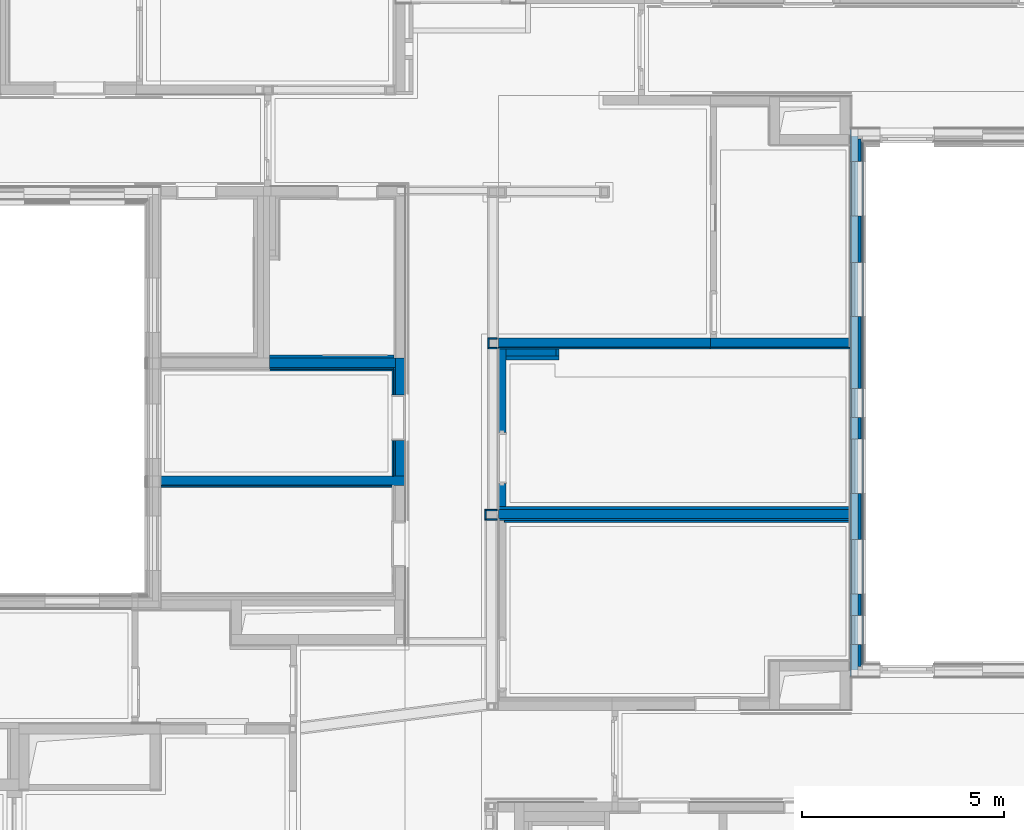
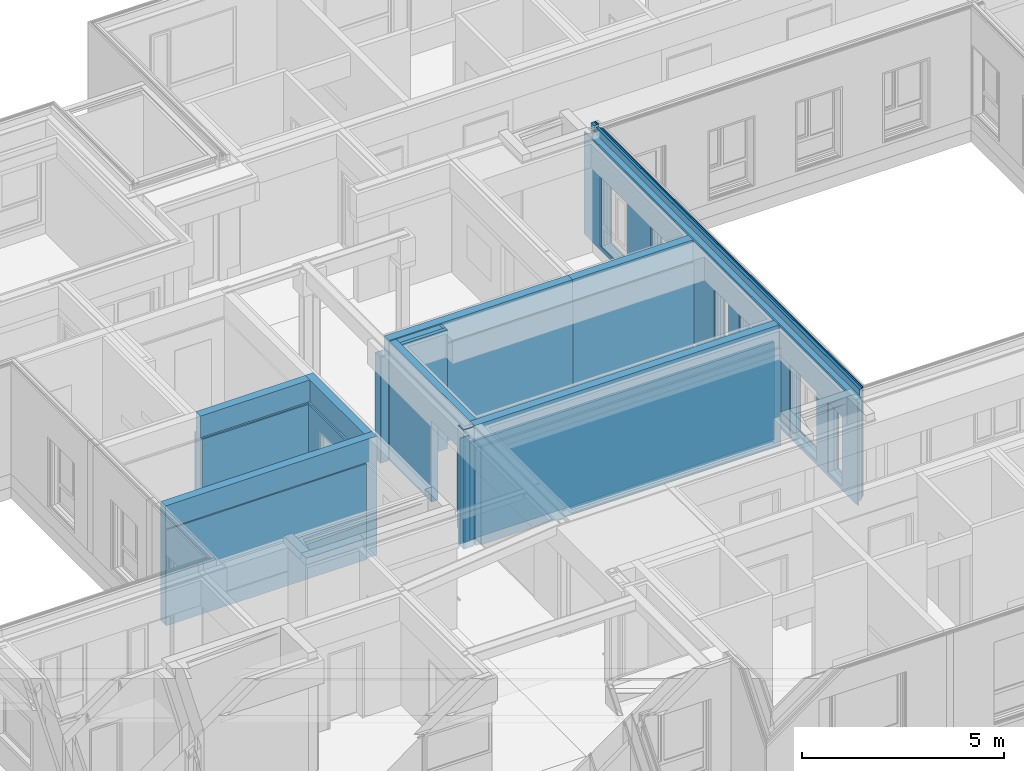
# One storey, part 48 of 207: 32 walls, 34 openings.
"""IFC4 building model written with IfcOpenShell, lengths in metres."""

from ifc_helpers import new_model, entity, si_unit, converted_unit, derived_unit, frame, frame_2d, origin, origin_with_axes, place, context, subcontext, project, spatial, polyline, rectangle, outline, extrude, clip, bounded_halfspace, material, element, save


model = new_model("IFC4")

# Units and contexts
model_context = context("Model", 3, precision=1e-05, world=origin())
body_context = subcontext(model_context, "Body", "Model", "MODEL_VIEW")
ifc_project = project(units=[si_unit("LENGTHUNIT", "METRE"), si_unit("AREAUNIT", "SQUARE_METRE"), si_unit("VOLUMEUNIT", "CUBIC_METRE"), si_unit("MASSUNIT", "GRAM", prefix="KILO"), converted_unit("PLANEANGLEUNIT", "DEGREE", entity("IfcPlaneAngleMeasure", 0.0174532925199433), si_unit("PLANEANGLEUNIT", "RADIAN"), dimensions=[0, 0, 0, 0, 0, 0, 0]), derived_unit("THERMALTRANSMITTANCEUNIT", [(si_unit("POWERUNIT", "WATT"), 1), (si_unit("THERMODYNAMICTEMPERATUREUNIT", "KELVIN"), -1), (si_unit("LENGTHUNIT", "METRE"), -2)]), derived_unit("VOLUMETRICFLOWRATEUNIT", [(si_unit("LENGTHUNIT", "METRE"), 3), (converted_unit("TIMEUNIT", "hour", entity("IfcTimeMeasure", 3600.0), si_unit("TIMEUNIT", "SECOND"), dimensions=[0, 0, 1, 0, 0, 0, 0]), -1), (si_unit("LENGTHUNIT", "METRE"), -1)])], contexts=[model_context])

# Site, building, storey
site_placement = place(None, origin())
site = spatial("IfcSite", under=ifc_project, at=site_placement, Name="Psychiatrie Neubau Wunstorf", CompositionType="ELEMENT")
building_placement = place(site_placement, origin())
building = spatial("IfcBuilding", under=site, at=building_placement, Name="Neubau H2 Stationsgebäude", CompositionType="ELEMENT")
storey_placement = place(building_placement, frame((0.0, 0.0, -0.2)))
storey = spatial("IfcBuildingStorey", under=building, at=storey_placement, Name="H2 Ebene 0", CompositionType="ELEMENT", Elevation=-0.2)

# Wall, openings
ifc_material_1 = material(Name="WA-LB")
wall_1_placement = place(storey_placement, frame((79.139, 22.0, 0.5), z_axis=(0.0, 0.0, 1.0), x_axis=(0.0, -1.0, 0.0)))
wall_1 = element("IfcWall", 1, at=wall_1_placement, inside=storey, material=ifc_material_1, context=body_context, shape_type="SweptSolid", body=[
    extrude(rectangle(XDim=13.55, YDim=0.036, at=frame_2d((6.775, 0.018), x_axis=(1.0, 0.0))), origin_with_axes(), (0.0, 0.0, 1.0), 3.1),
])
opening_1_placement = place(wall_1_placement, frame((12.7649999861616, 0.036, 0.1), z_axis=(0.0, -1.0, 0.0), x_axis=(0.0, 0.0, 1.0)))
element("IfcOpeningElement", 2, at=opening_1_placement, cuts=wall_1, Name="Fensteröffnung", ObjectType="Opening", context=body_context, shape_type="SweptSolid", body=[
    extrude(outline(polyline([(2.12, 0.725), (2.12, 0.0), (0.0, 0.0), (0.0, 0.725), (2.12, 0.725)])), origin_with_axes(), (0.0, 0.0, 1.0), 0.036),
])
opening_2_placement = place(wall_1_placement, frame((11.5165865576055, 0.036, 0.1), z_axis=(0.0, -1.0, 0.0), x_axis=(0.0, 0.0, 1.0)))
element("IfcOpeningElement", 3, at=opening_2_placement, cuts=wall_1, Name="Fensteröffnung", ObjectType="Opening", context=body_context, shape_type="SweptSolid", body=[
    extrude(outline(polyline([(2.12, 1.35), (2.12, 0.0), (0.0, 0.0), (0.0, 1.35), (2.12, 1.35)])), origin_with_axes(), (0.0, 0.0, 1.0), 0.036),
])
opening_3_placement = place(wall_1_placement, frame((9.01664410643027, 0.036, 0.1), z_axis=(0.0, -1.0, 0.0), x_axis=(0.0, 0.0, 1.0)))
element("IfcOpeningElement", 4, at=opening_3_placement, cuts=wall_1, Name="Fensteröffnung", ObjectType="Opening", context=body_context, shape_type="SweptSolid", body=[
    extrude(outline(polyline([(2.12, 1.35), (2.12, 0.0), (0.0, 0.0), (0.0, 1.35), (2.12, 1.35)])), origin_with_axes(), (0.0, 0.0, 1.0), 0.036),
])
opening_4_placement = place(wall_1_placement, frame((4.64200463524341, 0.0360000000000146, 0.1), z_axis=(0.0, -1.0, 0.0), x_axis=(0.0, 0.0, 1.0)))
element("IfcOpeningElement", 5, at=opening_4_placement, cuts=wall_1, Name="Fensteröffnung", ObjectType="Opening", context=body_context, shape_type="SweptSolid", body=[
    extrude(outline(polyline([(2.12, 1.35), (2.12, 0.0), (0.0, 0.0), (0.0, 1.35), (2.12, 1.35)])), origin_with_axes(), (0.0, 0.0, 1.0), 0.036),
])
opening_5_placement = place(wall_1_placement, frame((2.14244477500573, 0.036, 0.1), z_axis=(0.0, -1.0, 0.0), x_axis=(0.0, 0.0, 1.0)))
element("IfcOpeningElement", 6, at=opening_5_placement, cuts=wall_1, Name="Fensteröffnung", ObjectType="Opening", context=body_context, shape_type="SweptSolid", body=[
    extrude(outline(polyline([(2.12, 1.35), (2.12, 0.0), (0.0, 0.0), (0.0, 1.35), (2.12, 1.35)])), origin_with_axes(), (0.0, 0.0, 1.0), 0.036),
])
opening_6_placement = place(wall_1_placement, frame((7.14238722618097, 0.036, 0.1), z_axis=(0.0, -1.0, 0.0), x_axis=(0.0, 0.0, 1.0)))
element("IfcOpeningElement", 7, at=opening_6_placement, cuts=wall_1, Name="Fensteröffnung", ObjectType="Opening", context=body_context, shape_type="SweptSolid", body=[
    extrude(outline(polyline([(2.12, 0.725), (2.12, 0.0), (0.0, 0.0), (0.0, 0.725), (2.12, 0.725)])), origin_with_axes(), (0.0, 0.0, 1.0), 0.036),
])

ifc_material_2 = material(Name="WA-HD")
wall_2_placement = place(storey_placement, frame((79.175, 21.84, 0.5), z_axis=(0.0, 0.0, 1.0), x_axis=(0.0, -1.0, 0.0)))
wall_2 = element("IfcWall", 8, at=wall_2_placement, inside=storey, material=ifc_material_2, context=body_context, shape_type="SweptSolid", body=[
    extrude(rectangle(XDim=13.23, YDim=0.16, at=frame_2d((6.615, 0.08), x_axis=(1.0, 0.0))), origin_with_axes(), (0.0, 0.0, 1.0), 3.1),
])
opening_7_placement = place(wall_2_placement, frame((12.6049999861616, 0.16, 0.1), z_axis=(0.0, -1.0, 0.0), x_axis=(0.0, 0.0, 1.0)))
element("IfcOpeningElement", 9, at=opening_7_placement, cuts=wall_2, Name="Fensteröffnung", ObjectType="Opening", context=body_context, shape_type="SweptSolid", body=[
    extrude(outline(polyline([(2.12, 0.725), (2.12, 0.0), (0.0, 0.0), (0.0, 0.725), (2.12, 0.725)])), origin_with_axes(), (0.0, 0.0, 1.0), 0.16),
])
opening_8_placement = place(wall_2_placement, frame((11.3565865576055, 0.16, 0.1), z_axis=(0.0, -1.0, 0.0), x_axis=(0.0, 0.0, 1.0)))
element("IfcOpeningElement", 10, at=opening_8_placement, cuts=wall_2, Name="Fensteröffnung", ObjectType="Opening", context=body_context, shape_type="SweptSolid", body=[
    extrude(outline(polyline([(2.12, 1.35), (2.12, 0.0), (0.0, 0.0), (0.0, 1.35), (2.12, 1.35)])), origin_with_axes(), (0.0, 0.0, 1.0), 0.16),
])
opening_9_placement = place(wall_2_placement, frame((8.85664410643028, 0.16, 0.1), z_axis=(0.0, -1.0, 0.0), x_axis=(0.0, 0.0, 1.0)))
element("IfcOpeningElement", 11, at=opening_9_placement, cuts=wall_2, Name="Fensteröffnung", ObjectType="Opening", context=body_context, shape_type="SweptSolid", body=[
    extrude(outline(polyline([(2.12, 1.35), (2.12, 0.0), (0.0, 0.0), (0.0, 1.35), (2.12, 1.35)])), origin_with_axes(), (0.0, 0.0, 1.0), 0.16),
])
opening_10_placement = place(wall_2_placement, frame((4.48200463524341, 0.160000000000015, 0.1), z_axis=(0.0, -1.0, 0.0), x_axis=(0.0, 0.0, 1.0)))
element("IfcOpeningElement", 12, at=opening_10_placement, cuts=wall_2, Name="Fensteröffnung", ObjectType="Opening", context=body_context, shape_type="SweptSolid", body=[
    extrude(outline(polyline([(2.12, 1.35), (2.12, 0.0), (0.0, 0.0), (0.0, 1.35), (2.12, 1.35)])), origin_with_axes(), (0.0, 0.0, 1.0), 0.16),
])
opening_11_placement = place(wall_2_placement, frame((1.98244477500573, 0.16, 0.1), z_axis=(0.0, -1.0, 0.0), x_axis=(0.0, 0.0, 1.0)))
element("IfcOpeningElement", 13, at=opening_11_placement, cuts=wall_2, Name="Fensteröffnung", ObjectType="Opening", context=body_context, shape_type="SweptSolid", body=[
    extrude(outline(polyline([(2.12, 1.35), (2.12, 0.0), (0.0, 0.0), (0.0, 1.35), (2.12, 1.35)])), origin_with_axes(), (0.0, 0.0, 1.0), 0.16),
])
opening_12_placement = place(wall_2_placement, frame((6.98238722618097, 0.16, 0.1), z_axis=(0.0, -1.0, 0.0), x_axis=(0.0, 0.0, 1.0)))
element("IfcOpeningElement", 14, at=opening_12_placement, cuts=wall_2, Name="Fensteröffnung", ObjectType="Opening", context=body_context, shape_type="SweptSolid", body=[
    extrude(outline(polyline([(2.12, 0.725), (2.12, 0.0), (0.0, 0.0), (0.0, 0.725), (2.12, 0.725)])), origin_with_axes(), (0.0, 0.0, 1.0), 0.16),
])

ifc_material_3 = material(Name="WA-DL")
wall_3_placement = place(storey_placement, frame((79.335, 22.0, 0.5), z_axis=(0.0, 0.0, 1.0), x_axis=(0.0, -1.0, 0.0)))
wall_3 = element("IfcWall", 15, at=wall_3_placement, inside=storey, material=ifc_material_3, context=body_context, shape_type="Clipping", body=[
    clip(extrude(rectangle(XDim=13.07, YDim=0.08, at=frame_2d((6.535, 0.04), x_axis=(1.0, 0.0))), frame((0.24, 0.0, 0.0), z_axis=(0.0, 0.0, 1.0), x_axis=(1.0, 0.0, 0.0)), (0.0, 0.0, 1.0), 3.3), bounded_halfspace(frame((0.08, 0.04, 3.1), z_axis=(1.4210854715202e-15, 2.8421709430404e-15, 1.0), x_axis=(1.0, 0.0, -2.8421709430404e-15)), True, origin_with_axes(), polyline([(0.0, 0.0), (0.16, 0.0), (0.16, 0.08), (0.0, 0.08), (0.0, 0.0)]))),
    clip(extrude(rectangle(XDim=0.16, YDim=0.08, at=frame_2d((0.08, 0.04), x_axis=(1.0, 0.0))), origin_with_axes(), (0.0, 0.0, 1.0), 3.3), bounded_halfspace(frame((0.08, 0.04, 3.1), z_axis=(1.4210854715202e-15, 2.8421709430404e-15, 1.0), x_axis=(1.0, 0.0, -2.8421709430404e-15)), True, origin_with_axes(), polyline([(0.0, 0.0), (0.16, 0.0), (0.16, 0.08), (0.0, 0.08), (0.0, 0.0)]))),
])
opening_13_placement = place(wall_3_placement, frame((12.7649999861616, 0.08, 0.1), z_axis=(0.0, -1.0, 0.0), x_axis=(0.0, 0.0, 1.0)))
element("IfcOpeningElement", 16, at=opening_13_placement, cuts=wall_3, Name="Fensteröffnung", ObjectType="Opening", context=body_context, shape_type="SweptSolid", body=[
    extrude(outline(polyline([(2.12, 0.725), (2.12, 0.0), (0.0, 0.0), (0.0, 0.725), (2.12, 0.725)])), origin_with_axes(), (0.0, 0.0, 1.0), 0.08),
])
opening_14_placement = place(wall_3_placement, frame((11.5165865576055, 0.08, 0.1), z_axis=(0.0, -1.0, 0.0), x_axis=(0.0, 0.0, 1.0)))
element("IfcOpeningElement", 17, at=opening_14_placement, cuts=wall_3, Name="Fensteröffnung", ObjectType="Opening", context=body_context, shape_type="SweptSolid", body=[
    extrude(outline(polyline([(2.12, 1.35), (2.12, 0.0), (0.0, 0.0), (0.0, 1.35), (2.12, 1.35)])), origin_with_axes(), (0.0, 0.0, 1.0), 0.08),
])
opening_15_placement = place(wall_3_placement, frame((9.01664410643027, 0.08, 0.1), z_axis=(0.0, -1.0, 0.0), x_axis=(0.0, 0.0, 1.0)))
element("IfcOpeningElement", 18, at=opening_15_placement, cuts=wall_3, Name="Fensteröffnung", ObjectType="Opening", context=body_context, shape_type="SweptSolid", body=[
    extrude(outline(polyline([(2.12, 1.35), (2.12, 0.0), (0.0, 0.0), (0.0, 1.35), (2.12, 1.35)])), origin_with_axes(), (0.0, 0.0, 1.0), 0.08),
])
opening_16_placement = place(wall_3_placement, frame((4.64200463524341, 0.0800000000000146, 0.1), z_axis=(0.0, -1.0, 0.0), x_axis=(0.0, 0.0, 1.0)))
element("IfcOpeningElement", 19, at=opening_16_placement, cuts=wall_3, Name="Fensteröffnung", ObjectType="Opening", context=body_context, shape_type="SweptSolid", body=[
    extrude(outline(polyline([(2.12, 1.35), (2.12, 0.0), (0.0, 0.0), (0.0, 1.35), (2.12, 1.35)])), origin_with_axes(), (0.0, 0.0, 1.0), 0.08),
])
opening_17_placement = place(wall_3_placement, frame((2.14244477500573, 0.08, 0.1), z_axis=(0.0, -1.0, 0.0), x_axis=(0.0, 0.0, 1.0)))
element("IfcOpeningElement", 20, at=opening_17_placement, cuts=wall_3, Name="Fensteröffnung", ObjectType="Opening", context=body_context, shape_type="SweptSolid", body=[
    extrude(outline(polyline([(2.12, 1.35), (2.12, 0.0), (0.0, 0.0), (0.0, 1.35), (2.12, 1.35)])), origin_with_axes(), (0.0, 0.0, 1.0), 0.08),
])
opening_18_placement = place(wall_3_placement, frame((7.14238722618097, 0.08, 0.1), z_axis=(0.0, -1.0, 0.0), x_axis=(0.0, 0.0, 1.0)))
element("IfcOpeningElement", 21, at=opening_18_placement, cuts=wall_3, Name="Fensteröffnung", ObjectType="Opening", context=body_context, shape_type="SweptSolid", body=[
    extrude(outline(polyline([(2.12, 0.725), (2.12, 0.0), (0.0, 0.0), (0.0, 0.725), (2.12, 0.725)])), origin_with_axes(), (0.0, 0.0, 1.0), 0.08),
])

ifc_material_4 = material(Name="WA-LB")
wall_4_placement = place(storey_placement, frame((79.415, 22.0, 0.5), z_axis=(0.0, 0.0, 1.0), x_axis=(0.0, -1.0, 0.0)))
wall_4 = element("IfcWall", 22, at=wall_4_placement, inside=storey, material=ifc_material_4, context=body_context, shape_type="Clipping", body=[
    clip(extrude(rectangle(XDim=12.974, YDim=0.036, at=frame_2d((6.487, 0.018), x_axis=(1.0, 0.0))), frame((0.3, 0.0, 0.0), z_axis=(0.0, 0.0, 1.0), x_axis=(1.0, 0.0, 0.0)), (0.0, 0.0, 1.0), 3.3), bounded_halfspace(frame((0.08, 0.018, 3.1), z_axis=(1.4210854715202e-15, 6.31593542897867e-15, 1.0), x_axis=(0.0, -1.0, 1.26318708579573e-14)), True, origin_with_axes(), polyline([(0.0, 0.036), (0.0, 0.0), (0.16, 0.0), (0.16, 0.036), (0.0, 0.036)]))),
    clip(extrude(rectangle(XDim=0.16, YDim=0.036, at=frame_2d((0.08, 0.018), x_axis=(1.0, 0.0))), origin_with_axes(), (0.0, 0.0, 1.0), 3.3), bounded_halfspace(frame((0.08, 0.018, 3.1), z_axis=(1.4210854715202e-15, 6.31593542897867e-15, 1.0), x_axis=(0.0, -1.0, 1.26318708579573e-14)), True, origin_with_axes(), polyline([(0.0, 0.036), (0.0, 0.0), (0.16, 0.0), (0.16, 0.036), (0.0, 0.036)]))),
])
opening_19_placement = place(wall_4_placement, frame((12.7649999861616, 0.036, 0.1), z_axis=(0.0, -1.0, 0.0), x_axis=(0.0, 0.0, 1.0)))
element("IfcOpeningElement", 23, at=opening_19_placement, cuts=wall_4, Name="Fensteröffnung", ObjectType="Opening", context=body_context, shape_type="SweptSolid", body=[
    extrude(outline(polyline([(2.12, 0.725), (2.12, 0.0), (0.0, 0.0), (0.0, 0.725), (2.12, 0.725)])), origin_with_axes(), (0.0, 0.0, 1.0), 0.036),
])
opening_20_placement = place(wall_4_placement, frame((11.5165865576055, 0.036, 0.1), z_axis=(0.0, -1.0, 0.0), x_axis=(0.0, 0.0, 1.0)))
element("IfcOpeningElement", 24, at=opening_20_placement, cuts=wall_4, Name="Fensteröffnung", ObjectType="Opening", context=body_context, shape_type="SweptSolid", body=[
    extrude(outline(polyline([(2.12, 1.35), (2.12, 0.0), (0.0, 0.0), (0.0, 1.35), (2.12, 1.35)])), origin_with_axes(), (0.0, 0.0, 1.0), 0.036),
])
opening_21_placement = place(wall_4_placement, frame((9.01664410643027, 0.036, 0.1), z_axis=(0.0, -1.0, 0.0), x_axis=(0.0, 0.0, 1.0)))
element("IfcOpeningElement", 25, at=opening_21_placement, cuts=wall_4, Name="Fensteröffnung", ObjectType="Opening", context=body_context, shape_type="SweptSolid", body=[
    extrude(outline(polyline([(2.12, 1.35), (2.12, 0.0), (0.0, 0.0), (0.0, 1.35), (2.12, 1.35)])), origin_with_axes(), (0.0, 0.0, 1.0), 0.036),
])
opening_22_placement = place(wall_4_placement, frame((4.64200463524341, 0.0360000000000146, 0.1), z_axis=(0.0, -1.0, 0.0), x_axis=(0.0, 0.0, 1.0)))
element("IfcOpeningElement", 26, at=opening_22_placement, cuts=wall_4, Name="Fensteröffnung", ObjectType="Opening", context=body_context, shape_type="SweptSolid", body=[
    extrude(outline(polyline([(2.12, 1.35), (2.12, 0.0), (0.0, 0.0), (0.0, 1.35), (2.12, 1.35)])), origin_with_axes(), (0.0, 0.0, 1.0), 0.036),
])
opening_23_placement = place(wall_4_placement, frame((2.14244477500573, 0.036, 0.1), z_axis=(0.0, -1.0, 0.0), x_axis=(0.0, 0.0, 1.0)))
element("IfcOpeningElement", 27, at=opening_23_placement, cuts=wall_4, Name="Fensteröffnung", ObjectType="Opening", context=body_context, shape_type="SweptSolid", body=[
    extrude(outline(polyline([(2.12, 1.35), (2.12, 0.0), (0.0, 0.0), (0.0, 1.35), (2.12, 1.35)])), origin_with_axes(), (0.0, 0.0, 1.0), 0.036),
])
opening_24_placement = place(wall_4_placement, frame((7.14238722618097, 0.036, 0.1), z_axis=(0.0, -1.0, 0.0), x_axis=(0.0, 0.0, 1.0)))
element("IfcOpeningElement", 28, at=opening_24_placement, cuts=wall_4, Name="Fensteröffnung", ObjectType="Opening", context=body_context, shape_type="SweptSolid", body=[
    extrude(outline(polyline([(2.12, 0.725), (2.12, 0.0), (0.0, 0.0), (0.0, 0.725), (2.12, 0.725)])), origin_with_axes(), (0.0, 0.0, 1.0), 0.036),
])

ifc_material_5 = material(Name="WA-KL")
wall_5_placement = place(storey_placement, frame((79.451, 22.0, 0.5), z_axis=(0.0, 0.0, 1.0), x_axis=(0.0, -1.0, 0.0)))
wall_5 = element("IfcWall", 29, at=wall_5_placement, inside=storey, material=ifc_material_5, context=body_context, shape_type="Clipping", body=[
    clip(extrude(rectangle(XDim=12.914, YDim=0.024, at=frame_2d((6.457, 0.012), x_axis=(1.0, 0.0))), frame((0.336, 0.0, 0.0), z_axis=(0.0, 0.0, 1.0), x_axis=(1.0, 0.0, 0.0)), (0.0, 0.0, 1.0), 3.3), bounded_halfspace(frame((0.08, 0.012, 3.1), z_axis=(1.4210854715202e-15, 9.473903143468e-15, 1.0), x_axis=(0.0, -1.0, 1.8947806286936e-14)), True, origin_with_axes(), polyline([(0.0, 0.024), (0.0, 0.0), (0.16, 0.0), (0.16, 0.024), (0.0, 0.024)]))),
    clip(extrude(rectangle(XDim=0.16, YDim=0.024, at=frame_2d((0.08, 0.012), x_axis=(1.0, 0.0))), origin_with_axes(), (0.0, 0.0, 1.0), 3.3), bounded_halfspace(frame((0.08, 0.012, 3.1), z_axis=(1.4210854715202e-15, 9.473903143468e-15, 1.0), x_axis=(0.0, -1.0, 1.8947806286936e-14)), True, origin_with_axes(), polyline([(0.0, 0.024), (0.0, 0.0), (0.16, 0.0), (0.16, 0.024), (0.0, 0.024)]))),
])
opening_25_placement = place(wall_5_placement, frame((12.7649999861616, 0.024, 0.1), z_axis=(0.0, -1.0, 0.0), x_axis=(0.0, 0.0, 1.0)))
element("IfcOpeningElement", 30, at=opening_25_placement, cuts=wall_5, Name="Fensteröffnung", ObjectType="Opening", context=body_context, shape_type="SweptSolid", body=[
    extrude(outline(polyline([(2.12, 0.725), (2.12, 0.0), (0.0, 0.0), (0.0, 0.725), (2.12, 0.725)])), origin_with_axes(), (0.0, 0.0, 1.0), 0.024),
])
opening_26_placement = place(wall_5_placement, frame((11.5165865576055, 0.024, 0.1), z_axis=(0.0, -1.0, 0.0), x_axis=(0.0, 0.0, 1.0)))
element("IfcOpeningElement", 31, at=opening_26_placement, cuts=wall_5, Name="Fensteröffnung", ObjectType="Opening", context=body_context, shape_type="SweptSolid", body=[
    extrude(outline(polyline([(2.12, 1.35), (2.12, 0.0), (0.0, 0.0), (0.0, 1.35), (2.12, 1.35)])), origin_with_axes(), (0.0, 0.0, 1.0), 0.024),
])
opening_27_placement = place(wall_5_placement, frame((9.01664410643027, 0.024, 0.1), z_axis=(0.0, -1.0, 0.0), x_axis=(0.0, 0.0, 1.0)))
element("IfcOpeningElement", 32, at=opening_27_placement, cuts=wall_5, Name="Fensteröffnung", ObjectType="Opening", context=body_context, shape_type="SweptSolid", body=[
    extrude(outline(polyline([(2.12, 1.35), (2.12, 0.0), (0.0, 0.0), (0.0, 1.35), (2.12, 1.35)])), origin_with_axes(), (0.0, 0.0, 1.0), 0.024),
])
opening_28_placement = place(wall_5_placement, frame((4.64200463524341, 0.0240000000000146, 0.1), z_axis=(0.0, -1.0, 0.0), x_axis=(0.0, 0.0, 1.0)))
element("IfcOpeningElement", 33, at=opening_28_placement, cuts=wall_5, Name="Fensteröffnung", ObjectType="Opening", context=body_context, shape_type="SweptSolid", body=[
    extrude(outline(polyline([(2.12, 1.35), (2.12, 0.0), (0.0, 0.0), (0.0, 1.35), (2.12, 1.35)])), origin_with_axes(), (0.0, 0.0, 1.0), 0.024),
])
opening_29_placement = place(wall_5_placement, frame((2.14244477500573, 0.024, 0.1), z_axis=(0.0, -1.0, 0.0), x_axis=(0.0, 0.0, 1.0)))
element("IfcOpeningElement", 34, at=opening_29_placement, cuts=wall_5, Name="Fensteröffnung", ObjectType="Opening", context=body_context, shape_type="SweptSolid", body=[
    extrude(outline(polyline([(2.12, 1.35), (2.12, 0.0), (0.0, 0.0), (0.0, 1.35), (2.12, 1.35)])), origin_with_axes(), (0.0, 0.0, 1.0), 0.024),
])
opening_30_placement = place(wall_5_placement, frame((7.14238722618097, 0.024, 0.1), z_axis=(0.0, -1.0, 0.0), x_axis=(0.0, 0.0, 1.0)))
element("IfcOpeningElement", 35, at=opening_30_placement, cuts=wall_5, Name="Fensteröffnung", ObjectType="Opening", context=body_context, shape_type="SweptSolid", body=[
    extrude(outline(polyline([(2.12, 0.725), (2.12, 0.0), (0.0, 0.0), (0.0, 0.725), (2.12, 0.725)])), origin_with_axes(), (0.0, 0.0, 1.0), 0.024),
])

# Walls
ifc_material_6 = material(Name="WI-IW")
wall_6_placement = place(storey_placement, frame((71.930000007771, 16.3855, 0.0), z_axis=(0.0, 0.0, 1.0), x_axis=(0.0, 1.0, 0.0)))
element("IfcWall", 36, at=wall_6_placement, inside=storey, material=ifc_material_6, context=body_context, shape_type="SweptSolid", body=[
    extrude(rectangle(XDim=0.175, YDim=0.075, at=frame_2d((0.0875, 0.0375), x_axis=(1.0, 0.0))), origin_with_axes(), (0.0, 0.0, 1.0), 3.6),
])
ifc_material_7 = material(Name="WI-HW 60")
wall_7_placement = place(storey_placement, frame((67.8855, 16.3355000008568, 0.0), z_axis=(0.0, 0.0, 1.0), x_axis=(-1.0, 0.0, 0.0)))
element("IfcWall", 37, at=wall_7_placement, inside=storey, material=ifc_material_7, context=body_context, shape_type="SweptSolid", body=[
    extrude(rectangle(XDim=3.1255, YDim=0.232, at=frame_2d((1.56275, 0.116), x_axis=(1.0, 0.0))), origin_with_axes(), (0.0, 0.0, 1.0), 3.6),
])
ifc_material_8 = material(Name="Installationsraum")
wall_8_placement = place(storey_placement, frame((67.8355, 16.1035000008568, 0.0), z_axis=(0.0, 0.0, 1.0), x_axis=(-1.0, 0.0, 0.0)))
element("IfcWall", 38, at=wall_8_placement, inside=storey, material=ifc_material_8, context=body_context, shape_type="SweptSolid", body=[
    extrude(rectangle(XDim=3.0755, YDim=0.05, at=frame_2d((1.53775, 0.025), x_axis=(1.0, 0.0))), origin_with_axes(), (0.0, 0.0, 1.0), 2.95),
])
ifc_material_9 = material(Name="WI-LB")
wall_9_placement = place(storey_placement, frame((67.796, 16.0535000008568, 0.0), z_axis=(0.0, 0.0, 1.0), x_axis=(-1.0, 0.0, 0.0)))
element("IfcWall", 39, at=wall_9_placement, inside=storey, material=ifc_material_9, context=body_context, shape_type="SweptSolid", body=[
    extrude(rectangle(XDim=3.036, YDim=0.0395, at=frame_2d((1.518, 0.01975), x_axis=(1.0, 0.0))), origin_with_axes(), (0.0, 0.0, 1.0), 2.95),
])

# Wall, opening
ifc_material_10 = material(Name="WI-LB")
wall_10_placement = place(storey_placement, frame((67.796, 16.0535000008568, 0.0), z_axis=(0.0, 0.0, 1.0), x_axis=(0.0, -1.0, 0.0)))
wall_10 = element("IfcWall", 40, at=wall_10_placement, inside=storey, material=ifc_material_10, context=body_context, shape_type="SweptSolid", body=[
    extrude(rectangle(XDim=2.64400336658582, YDim=0.0395, at=frame_2d((1.32200168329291, 0.01975), x_axis=(1.0, 0.0))), origin_with_axes(), (0.0, 0.0, 1.0), 2.95),
])
opening_31_placement = place(wall_10_placement, frame((1.7635, 0.0395, 0.0), z_axis=(0.0, -1.0, 0.0), x_axis=(0.0, 0.0, 1.0)))
element("IfcOpeningElement", 41, at=opening_31_placement, cuts=wall_10, Name="Türöffnung", ObjectType="Opening", context=body_context, shape_type="SweptSolid", body=[
    extrude(outline(polyline([(2.46, 1.135), (2.46, 0.0), (0.0, 0.0), (0.0, 1.135), (2.46, 1.135)])), origin_with_axes(), (0.0, 0.0, 1.0), 0.0395),
])

ifc_material_11 = material(Name="Installationsraum")
wall_11_placement = place(storey_placement, frame((67.8355, 16.1035000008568, 0.0), z_axis=(0.0, 0.0, 1.0), x_axis=(0.0, -1.0, 0.0)))
wall_11 = element("IfcWall", 42, at=wall_11_placement, inside=storey, material=ifc_material_11, context=body_context, shape_type="SweptSolid", body=[
    extrude(rectangle(XDim=2.69400336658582, YDim=0.05, at=frame_2d((1.34700168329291, 0.025), x_axis=(1.0, 0.0))), origin_with_axes(), (0.0, 0.0, 1.0), 2.95),
])
opening_32_placement = place(wall_11_placement, frame((1.8135, 0.05, 0.0), z_axis=(0.0, -1.0, 0.0), x_axis=(0.0, 0.0, 1.0)))
element("IfcOpeningElement", 43, at=opening_32_placement, cuts=wall_11, Name="Türöffnung", ObjectType="Opening", context=body_context, shape_type="SweptSolid", body=[
    extrude(outline(polyline([(2.46, 1.135), (2.46, 0.0), (0.0, 0.0), (0.0, 1.135), (2.46, 1.135)])), origin_with_axes(), (0.0, 0.0, 1.0), 0.05),
])

ifc_material_12 = material(Name="WI-HW 60")
wall_12_placement = place(storey_placement, frame((67.8855, 16.3355000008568, 0.0), z_axis=(0.0, 0.0, 1.0), x_axis=(0.0, -1.0, 0.0)))
wall_12 = element("IfcWall", 44, at=wall_12_placement, inside=storey, material=ifc_material_12, context=body_context, shape_type="SweptSolid", body=[
    extrude(rectangle(XDim=2.92600336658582, YDim=0.232, at=frame_2d((1.46300168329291, 0.116), x_axis=(1.0, 0.0))), origin_with_axes(), (0.0, 0.0, 1.0), 3.6),
])
opening_33_placement = place(wall_12_placement, frame((2.0455, 0.232, 0.0), z_axis=(0.0, -1.0, 0.0), x_axis=(0.0, 0.0, 1.0)))
element("IfcOpeningElement", 45, at=opening_33_placement, cuts=wall_12, Name="Türöffnung", ObjectType="Opening", context=body_context, shape_type="SweptSolid", body=[
    extrude(outline(polyline([(2.46, 1.135), (2.46, 0.0), (0.0, 0.0), (0.0, 1.135), (2.46, 1.135)])), origin_with_axes(), (0.0, 0.0, 1.0), 0.232),
])

# Walls
ifc_material_13 = material(Name="WI-IW")
wall_13_placement = place(storey_placement, frame((70.62, 16.2855, 0.0)))
element("IfcWall", 46, at=wall_13_placement, inside=storey, material=ifc_material_13, context=body_context, shape_type="SweptSolid", body=[
    extrude(rectangle(XDim=1.31000000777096, YDim=0.1, at=frame_2d((0.655000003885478, 0.05), x_axis=(1.0, 0.0))), origin_with_axes(), (0.0, 0.0, 1.0), 3.6),
])
ifc_material_14 = material(Name="Installationsraum")
wall_14_placement = place(storey_placement, frame((70.62, 16.3855, 0.0)))
element("IfcWall", 47, at=wall_14_placement, inside=storey, material=ifc_material_14, context=body_context, shape_type="SweptSolid", body=[
    extrude(rectangle(XDim=1.23500000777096, YDim=0.175, at=frame_2d((0.617500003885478, 0.0875), x_axis=(1.0, 0.0))), origin_with_axes(), (0.0, 0.0, 1.0), 3.6),
])
ifc_material_15 = material(Name="BS Beplankung")
wall_15_placement = place(storey_placement, frame((70.1639939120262, 16.8325, 0.0), z_axis=(0.0, 0.0, 1.0), x_axis=(0.0, -1.0, 0.0)))
element("IfcWall", 48, at=wall_15_placement, inside=storey, material=ifc_material_15, context=body_context, shape_type="SweptSolid", body=[
    extrude(outline(polyline([(-0.272, 0.0), (0.0, 0.0), (0.0, 0.0260060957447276), (-0.036, 0.0260060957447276), (-0.036, 0.036), (-0.272, 0.036), (-0.272, 0.0)])), frame((0.272, 0.0, 0.0), z_axis=(0.0, 0.0, 1.0), x_axis=(1.0, 0.0, 0.0)), (0.0, 0.0, 1.0), 3.2),
])
ifc_material_16 = material(Name="BS Beplankung")
wall_16_placement = place(storey_placement, frame((70.135000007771, 12.3140595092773, 0.0)))
element("IfcWall", 49, at=wall_16_placement, inside=storey, material=ifc_material_16, context=body_context, shape_type="SweptSolid", body=[
    extrude(rectangle(XDim=0.265, YDim=0.036, at=frame_2d((0.1325, 0.018), x_axis=(1.0, 0.0))), origin_with_axes(), (0.0, 0.0, 1.0), 3.6),
])
ifc_material_17 = material(Name="BS Beplankung")
wall_17_placement = place(storey_placement, frame((70.400000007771, 12.5860595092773, 0.0), z_axis=(0.0, 0.0, 1.0), x_axis=(-1.0, 0.0, 0.0)))
element("IfcWall", 50, at=wall_17_placement, inside=storey, material=ifc_material_17, context=body_context, shape_type="SweptSolid", body=[
    extrude(rectangle(XDim=0.265, YDim=0.036, at=frame_2d((0.1325, 0.018), x_axis=(1.0, 0.0))), origin_with_axes(), (0.0, 0.0, 1.0), 3.2),
])
ifc_material_18 = material(Name="BS Beplankung")
wall_18_placement = place(storey_placement, frame((70.099000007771, 12.5860595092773, 0.0), z_axis=(0.0, 0.0, 1.0), x_axis=(0.0, -1.0, 0.0)))
element("IfcWall", 51, at=wall_18_placement, inside=storey, material=ifc_material_18, context=body_context, shape_type="SweptSolid", body=[
    extrude(rectangle(XDim=0.272, YDim=0.036, at=frame_2d((0.136, 0.018), x_axis=(1.0, 0.0))), origin_with_axes(), (0.0, 0.0, 1.0), 3.6),
])
ifc_material_19 = material(Name="BS Beplankung")
wall_19_placement = place(storey_placement, frame((70.190000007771, 16.5605, 0.0)))
element("IfcWall", 52, at=wall_19_placement, inside=storey, material=ifc_material_19, context=body_context, shape_type="SweptSolid", body=[
    extrude(rectangle(XDim=0.21, YDim=0.036, at=frame_2d((0.105, 0.018), x_axis=(1.0, 0.0))), origin_with_axes(), (0.0, 0.0, 1.0), 3.2),
])
ifc_material_20 = material(Name="BS Beplankung")
wall_20_placement = place(storey_placement, frame((70.400000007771, 16.8325, 0.0), z_axis=(0.0, 0.0, 1.0), x_axis=(-1.0, 0.0, 0.0)))
element("IfcWall", 53, at=wall_20_placement, inside=storey, material=ifc_material_20, context=body_context, shape_type="SweptSolid", body=[
    extrude(rectangle(XDim=0.200006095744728, YDim=0.036, at=frame_2d((0.100003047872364, 0.018), x_axis=(1.0, 0.0))), origin_with_axes(), (0.0, 0.0, 1.0), 3.2),
])

# Wall, opening
ifc_material_21 = material(Name="WI-LB")
wall_21_placement = place(storey_placement, frame((70.43, 16.5605, 0.0), z_axis=(0.0, 0.0, 1.0), x_axis=(0.0, -1.0, 0.0)))
wall_21 = element("IfcWall", 54, at=wall_21_placement, inside=storey, material=ifc_material_21, context=body_context, shape_type="SweptSolid", body=[
    extrude(rectangle(XDim=3.9745, YDim=0.19, at=frame_2d((1.98725, 0.095), x_axis=(1.0, 0.0))), origin_with_axes(), (0.0, 0.0, 1.0), 3.6),
])
opening_34_placement = place(wall_21_placement, frame((3.3355, 0.19, 0.0), z_axis=(0.0, -1.0, 0.0), x_axis=(0.0, 0.0, 1.0)))
element("IfcOpeningElement", 55, at=opening_34_placement, cuts=wall_21, Name="Türöffnung", ObjectType="Opening", context=body_context, shape_type="SweptSolid", body=[
    extrude(outline(polyline([(2.46, 1.26), (2.46, 0.0), (0.0, 0.0), (0.0, 1.26), (2.46, 1.26)])), origin_with_axes(), (0.0, 0.0, 1.0), 0.19),
])

# Walls
ifc_material_22 = material(Name="WI-LB")
wall_22_placement = place(storey_placement, frame((70.58, 12.264, 0.0)))
element("IfcWall", 56, at=wall_22_placement, inside=storey, material=ifc_material_22, context=body_context, shape_type="SweptSolid", body=[
    extrude(rectangle(XDim=8.55899999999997, YDim=0.04, at=frame_2d((4.27949999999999, 0.02), x_axis=(1.0, 0.0))), origin_with_axes(), (0.0, 0.0, 1.0), 2.95),
])
ifc_material_23 = material(Name="Installationsraum")
wall_23_placement = place(storey_placement, frame((70.43, 12.304, 0.0)))
element("IfcWall", 57, at=wall_23_placement, inside=storey, material=ifc_material_23, context=body_context, shape_type="SweptSolid", body=[
    extrude(rectangle(XDim=8.70899999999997, YDim=0.05, at=frame_2d((4.35449999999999, 0.025), x_axis=(1.0, 0.0))), origin_with_axes(), (0.0, 0.0, 1.0), 2.95),
])
ifc_material_24 = material(Name="WI-HW 60")
wall_24_placement = place(storey_placement, frame((70.43, 12.354, 0.0)))
element("IfcWall", 58, at=wall_24_placement, inside=storey, material=ifc_material_24, context=body_context, shape_type="SweptSolid", body=[
    extrude(rectangle(XDim=8.70899999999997, YDim=0.232, at=frame_2d((4.35449999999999, 0.116), x_axis=(1.0, 0.0))), origin_with_axes(), (0.0, 0.0, 1.0), 3.6),
])
ifc_material_25 = material(Name="WI-VS")
wall_25_placement = place(storey_placement, frame((70.43, 12.586, 0.0)))
element("IfcWall", 59, at=wall_25_placement, inside=storey, material=ifc_material_25, context=body_context, shape_type="SweptSolid", body=[
    extrude(rectangle(XDim=8.70899999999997, YDim=0.075, at=frame_2d((4.35449999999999, 0.0375), x_axis=(1.0, 0.0))), origin_with_axes(), (0.0, 0.0, 1.0), 2.95),
])
ifc_material_26 = material(Name="WI-VS")
wall_26_placement = place(storey_placement, frame((64.76, 16.3360000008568, 0.0)))
element("IfcWall", 60, at=wall_26_placement, inside=storey, material=ifc_material_26, context=body_context, shape_type="SweptSolid", body=[
    extrude(rectangle(XDim=3.086, YDim=0.075, at=frame_2d((1.543, 0.0375), x_axis=(1.0, 0.0))), origin_with_axes(), (0.0, 0.0, 1.0), 2.95),
])
ifc_material_27 = material(Name="WI-HW 60")
wall_27_placement = place(storey_placement, frame((68.1175, 13.409496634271, 0.0), z_axis=(0.0, 0.0, 1.0), x_axis=(-1.0, 0.0, 0.0)))
element("IfcWall", 61, at=wall_27_placement, inside=storey, material=ifc_material_27, context=body_context, shape_type="SweptSolid", body=[
    extrude(rectangle(XDim=6.05649999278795, YDim=0.232, at=frame_2d((3.02824999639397, 0.116), x_axis=(1.0, 0.0))), origin_with_axes(), (0.0, 0.0, 1.0), 3.6),
])
ifc_material_28 = material(Name="WI-LB")
wall_28_placement = place(storey_placement, frame((67.796, 13.177496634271, 0.0), z_axis=(0.0, 0.0, 1.0), x_axis=(-1.0, 0.0, 0.0)))
element("IfcWall", 62, at=wall_28_placement, inside=storey, material=ifc_material_28, context=body_context, shape_type="SweptSolid", body=[
    extrude(rectangle(XDim=5.73499999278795, YDim=0.0395, at=frame_2d((2.86749999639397, 0.01975), x_axis=(1.0, 0.0))), origin_with_axes(), (0.0, 0.0, 1.0), 2.9),
])
ifc_material_29 = material(Name="WI-LB")
wall_29_placement = place(storey_placement, frame((70.430000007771, 16.5605, 0.0)))
element("IfcWall", 63, at=wall_29_placement, inside=storey, material=ifc_material_29, context=body_context, shape_type="SweptSolid", body=[
    extrude(rectangle(XDim=5.25399999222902, YDim=0.04, at=frame_2d((2.62699999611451, 0.02), x_axis=(1.0, 0.0))), origin_with_axes(), (0.0, 0.0, 1.0), 2.95),
])
ifc_material_30 = material(Name="WI-HW 60")
wall_30_placement = place(storey_placement, frame((70.430000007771, 16.6005, 0.0)))
element("IfcWall", 64, at=wall_30_placement, inside=storey, material=ifc_material_30, context=body_context, shape_type="SweptSolid", body=[
    extrude(rectangle(XDim=5.25399999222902, YDim=0.232, at=frame_2d((2.62699999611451, 0.116), x_axis=(1.0, 0.0))), origin_with_axes(), (0.0, 0.0, 1.0), 3.6),
])
ifc_material_31 = material(Name="WI-LB")
wall_31_placement = place(storey_placement, frame((75.684, 16.5605, 0.0)))
element("IfcWall", 65, at=wall_31_placement, inside=storey, material=ifc_material_31, context=body_context, shape_type="SweptSolid", body=[
    extrude(rectangle(XDim=3.455, YDim=0.04, at=frame_2d((1.7275, 0.02), x_axis=(1.0, 0.0))), origin_with_axes(), (0.0, 0.0, 1.0), 2.95),
])
ifc_material_32 = material(Name="WI-HW 60")
wall_32_placement = place(storey_placement, frame((75.684, 16.6005, 0.0)))
element("IfcWall", 66, at=wall_32_placement, inside=storey, material=ifc_material_32, context=body_context, shape_type="SweptSolid", body=[
    extrude(rectangle(XDim=3.455, YDim=0.232, at=frame_2d((1.7275, 0.116), x_axis=(1.0, 0.0))), origin_with_axes(), (0.0, 0.0, 1.0), 3.6),
])

save(model, "model.ifc")
